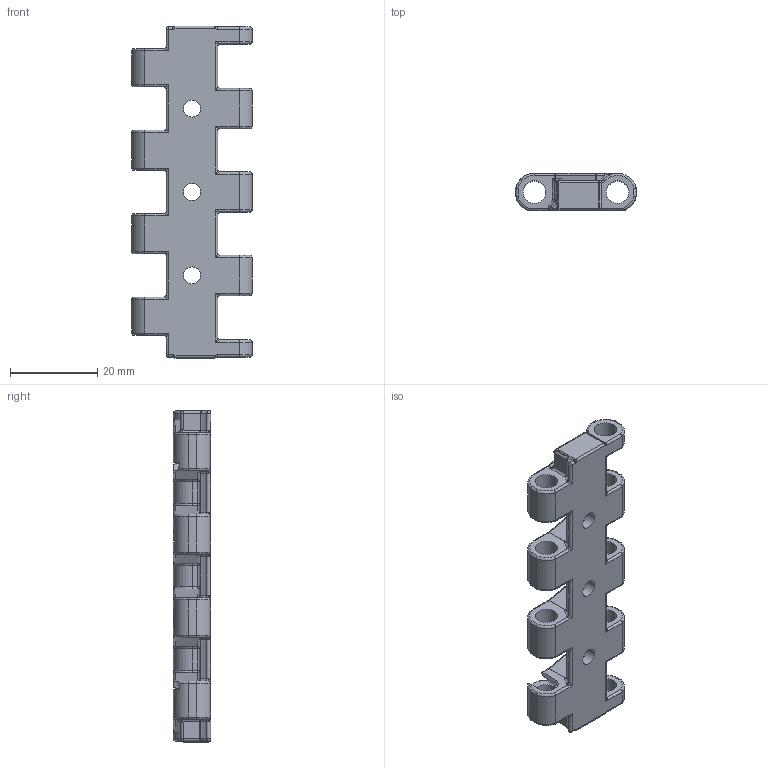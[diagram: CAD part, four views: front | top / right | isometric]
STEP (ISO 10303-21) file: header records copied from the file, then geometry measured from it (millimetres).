
FILE_DESCRIPTION((''),'2;1');
FILE_NAME('P161','2012-11-20T',('jas'),(''),'PRO/ENGINEER BY PARAMETRIC TECHNOLOGY CORPORATION, 2012230','PRO/ENGINEER BY PARAMETRIC TECHNOLOGY CORPORATION, 2012230','');
FILE_SCHEMA(('CONFIG_CONTROL_DESIGN'));
Length unit declared in the file: millimetre
Products named in the file (1): P161
Bounding box: 27.53 x 8.5 x 76 mm (x, y, z)
Volume: 5813.9 mm3; surface area: 6696.3 mm2
Topology: 1 solids, 1 shells, 779 faces, 1836 edges, 1068 vertices
Faces by surface type: cylinder 309, plane 188, torus 138, bspline 91, sphere 51, cone 2
Entity records: 29015 total; most frequent: CARTESIAN_POINT 11703, ORIENTED_EDGE 3672, DIRECTION 3608, EDGE_CURVE 1836, AXIS2_PLACEMENT_3D 1453, VERTEX_POINT 1068, EDGE_LOOP 812, FACE_OUTER_BOUND 779
